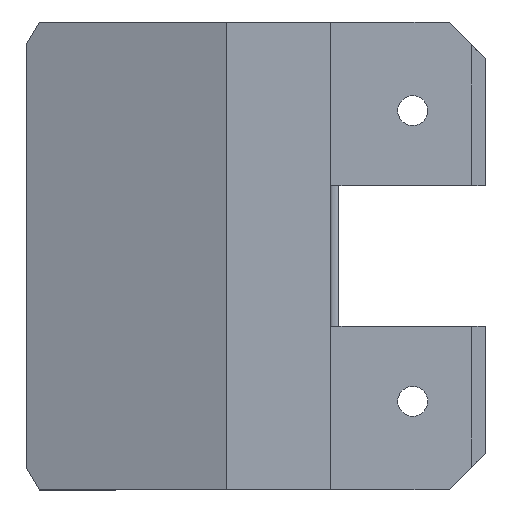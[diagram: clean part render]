
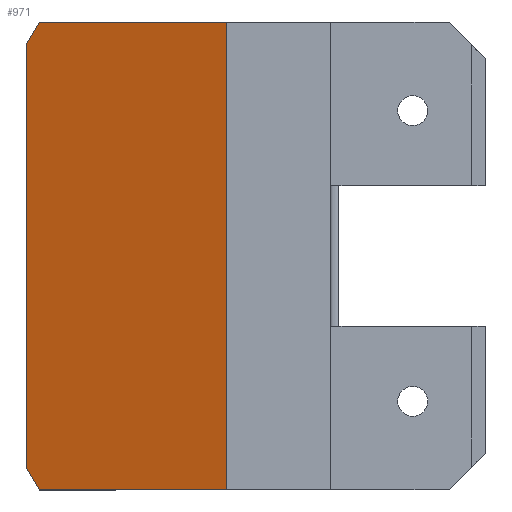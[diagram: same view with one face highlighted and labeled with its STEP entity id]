
A CAD part, top view. The second image highlights one B-rep face of the part: STEP entity #971.
In plain terms, the highlighted planar face has unit normal (-0.321, 0, 0.947).
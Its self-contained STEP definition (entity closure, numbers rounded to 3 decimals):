
#6 = LINE ( 'NONE', #524, #519 ) ;
#85 = DIRECTION ( 'NONE',  ( 0.497, 0.851, 0.168 ) ) ;
#112 = ORIENTED_EDGE ( 'NONE', *, *, #380, .T. ) ;
#113 = VECTOR ( 'NONE', #336, 1000. ) ;
#119 = LINE ( 'NONE', #537, #850 ) ;
#125 = DIRECTION ( 'NONE',  ( -0.497, 0.851, -0.168 ) ) ;
#128 = EDGE_CURVE ( 'NONE', #151, #1033, #411, .T. ) ;
#144 = EDGE_CURVE ( 'NONE', #443, #481, #119, .T. ) ;
#151 = VERTEX_POINT ( 'NONE', #1114 ) ;
#155 = ORIENTED_EDGE ( 'NONE', *, *, #128, .F. ) ;
#168 = CARTESIAN_POINT ( 'NONE',  ( -60.905, 21.343, -6.967 ) ) ;
#195 = DIRECTION ( 'NONE',  ( -0.321, 0., 0.947 ) ) ;
#237 = DIRECTION ( 'NONE',  ( 0.947, 0., 0.321 ) ) ;
#291 = CARTESIAN_POINT ( 'NONE',  ( -3.476, -41.751, 12.5 ) ) ;
#315 = CARTESIAN_POINT ( 'NONE',  ( -25.5, 44.369, 5.034 ) ) ;
#336 = DIRECTION ( 'NONE',  ( 0., 1., 0. ) ) ;
#338 = CARTESIAN_POINT ( 'NONE',  ( -25.5, -39.351, 5.034 ) ) ;
#345 = ORIENTED_EDGE ( 'NONE', *, *, #972, .T. ) ;
#380 = EDGE_CURVE ( 'NONE', #944, #443, #6, .T. ) ;
#411 = LINE ( 'NONE', #497, #754 ) ;
#423 = EDGE_CURVE ( 'NONE', #513, #151, #874, .T. ) ;
#443 = VERTEX_POINT ( 'NONE', #291 ) ;
#481 = VERTEX_POINT ( 'NONE', #586 ) ;
#497 = CARTESIAN_POINT ( 'NONE',  ( -9.845, 34.187, 10.341 ) ) ;
#513 = VERTEX_POINT ( 'NONE', #338 ) ;
#519 = VECTOR ( 'NONE', #237, 1000. ) ;
#524 = CARTESIAN_POINT ( 'NONE',  ( 6.817, -41.751, 15.989 ) ) ;
#537 = CARTESIAN_POINT ( 'NONE',  ( -3.476, 44.369, 12.5 ) ) ;
#582 = AXIS2_PLACEMENT_3D ( 'NONE', #915, #195, #775 ) ;
#586 = CARTESIAN_POINT ( 'NONE',  ( -3.476, 9.749, 12.5 ) ) ;
#588 = DIRECTION ( 'NONE',  ( 0., 1., 0. ) ) ;
#606 = EDGE_CURVE ( 'NONE', #944, #513, #1141, .T. ) ;
#658 = VECTOR ( 'NONE', #125, 1000. ) ;
#697 = DIRECTION ( 'NONE',  ( -0.947, 0., -0.321 ) ) ;
#745 = ORIENTED_EDGE ( 'NONE', *, *, #606, .F. ) ;
#754 = VECTOR ( 'NONE', #85, 1000. ) ;
#774 = EDGE_LOOP ( 'NONE', ( #745, #112, #804, #345, #155, #1217 ) ) ;
#775 = DIRECTION ( 'NONE',  ( 0.947, 0., 0.321 ) ) ;
#804 = ORIENTED_EDGE ( 'NONE', *, *, #144, .T. ) ;
#850 = VECTOR ( 'NONE', #588, 1000. ) ;
#866 = CARTESIAN_POINT ( 'NONE',  ( -24.1, 9.749, 5.509 ) ) ;
#874 = LINE ( 'NONE', #315, #113 ) ;
#915 = CARTESIAN_POINT ( 'NONE',  ( -25.5, 44.369, 5.034 ) ) ;
#933 = FACE_OUTER_BOUND ( 'NONE', #774, .T. ) ;
#944 = VERTEX_POINT ( 'NONE', #1195 ) ;
#967 = VECTOR ( 'NONE', #697, 1000. ) ;
#971 = ADVANCED_FACE ( 'NONE', ( #933 ), #1020, .T. ) ;
#972 = EDGE_CURVE ( 'NONE', #481, #1033, #1226, .T. ) ;
#985 = CARTESIAN_POINT ( 'NONE',  ( 6.817, 9.749, 15.989 ) ) ;
#1020 = PLANE ( 'NONE',  #582 ) ;
#1033 = VERTEX_POINT ( 'NONE', #866 ) ;
#1114 = CARTESIAN_POINT ( 'NONE',  ( -25.5, 7.349, 5.034 ) ) ;
#1141 = LINE ( 'NONE', #168, #658 ) ;
#1195 = CARTESIAN_POINT ( 'NONE',  ( -24.1, -41.751, 5.509 ) ) ;
#1217 = ORIENTED_EDGE ( 'NONE', *, *, #423, .F. ) ;
#1226 = LINE ( 'NONE', #985, #967 ) ;
